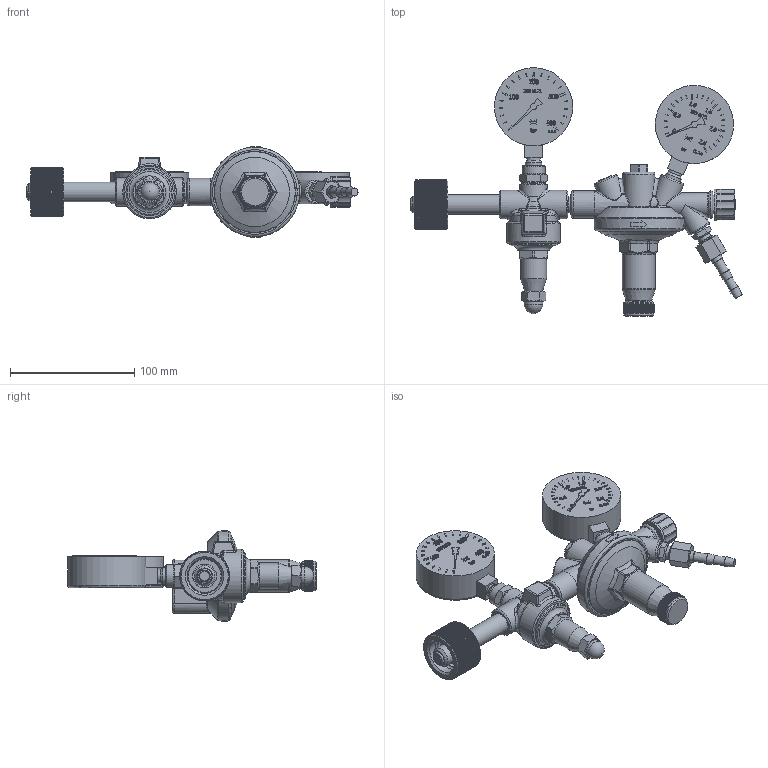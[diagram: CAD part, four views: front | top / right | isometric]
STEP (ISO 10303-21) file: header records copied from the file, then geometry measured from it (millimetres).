
FILE_DESCRIPTION(/* description */ (''),/* implementation_level */ '2;1');
FILE_NAME(/* name */ 'U:/AirCom-Produktdokumentation/Druckregler/RH300/Zeichnungen/CAD-Aircom/3D/B-RH302-00A.step',/* time_stamp */ '2022-09-16T13:03:38+02:00',/* author */ (''),/* organization */ (''),/* preprocessor_version */ 'ST-DEVELOPER v19',/* originating_system */ 'Autodesk Translation Framework v11.7.0.108',/* authorisation */ '');
FILE_SCHEMA (('AUTOMOTIVE_DESIGN { 1 0 10303 214 3 1 1 }'));
Length unit declared in the file: millimetre
Products named in the file (1): (Nicht gespeichert)
Bounding box: 267.37 x 200.22 x 72.98 mm (x, y, z)
Volume: 471743.9 mm3; surface area: 81598.6 mm2
Topology: 2 solids, 2 shells, 3058 faces, 8439 edges, 5536 vertices
Faces by surface type: plane 1791, bspline 608, cylinder 537, cone 73, torus 40, sphere 9
Full cylindrical faces by diameter (mm): 2 x1, 7 x1, 7.5 x1, 8.4 x1, 9 x1, 9.3 x1, 9.5 x1, 11 x4, 11.445 x1, 13 x1, 13.16 x3, 15 x2, 15.1 x1, 15.95 x1, 16 x2, 16.5 x2, 16.514 x1, 18.5 x2, 19 x1, 19.292 x1, 20 x2, 21 x1, 22 x2, 23 x2, 24 x2, 25 x1, 26.501 x1, 26.9 x1, 27.25 x1, 27.835 x1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
Entity records: 109454 total; most frequent: CARTESIAN_POINT 33858, ORIENTED_EDGE 16830, DIRECTION 13439, EDGE_CURVE 8415, VERTEX_POINT 5536, AXIS2_PLACEMENT_3D 4696, LINE 4047, VECTOR 4047
